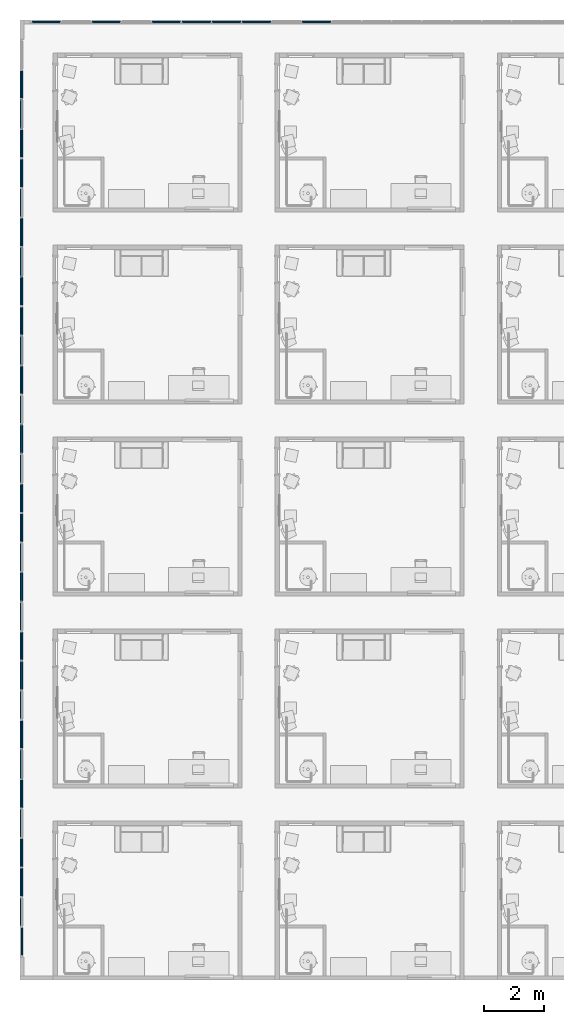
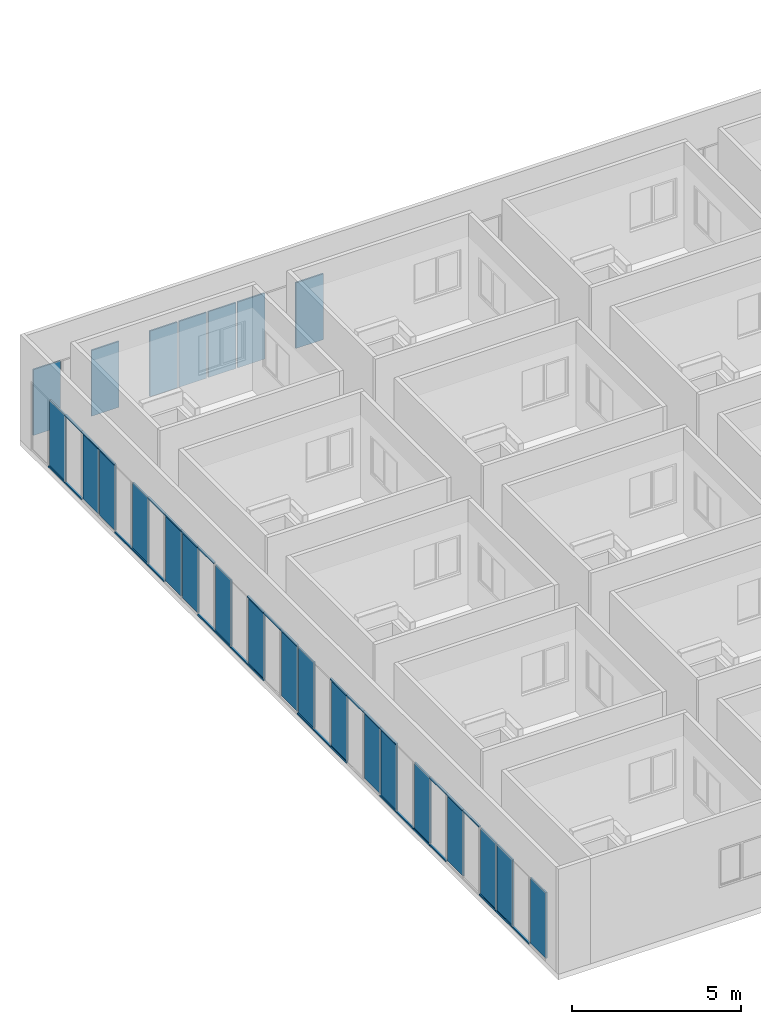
# One storey, part 5 of 69: 36 members, 25 plates, 2 elements without a shape of their own.
"""IFC4 building model written with IfcOpenShell, lengths in centimetres."""

from ifc_helpers import new_model, entity, si_unit, converted_unit, derived_unit, direction, frame, origin, place, context, subcontext, project, spatial, indexed_curve, outline, extrude, source, transform, mapped, material, type_object, type_shapes, element, aggregate, save


model = new_model("IFC4")

# Units and contexts
model_context = context("Model", 3, precision=0.001, world=origin(), true_north=direction((6.123233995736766e-17, 1.0)))
body_context = subcontext(model_context, "Body", "Model", "MODEL_VIEW")
ifc_project = project(units=[si_unit("LENGTHUNIT", "METRE", prefix="CENTI"), si_unit("AREAUNIT", "SQUARE_METRE"), si_unit("VOLUMEUNIT", "CUBIC_METRE"), derived_unit("THERMALTRANSMITTANCEUNIT", [(si_unit("MASSUNIT", "GRAM", prefix="KILO"), 1), (si_unit("THERMODYNAMICTEMPERATUREUNIT", "KELVIN"), -1), (si_unit("TIMEUNIT", "SECOND"), -3)]), converted_unit("PLANEANGLEUNIT", "DEGREE", entity("IfcPlaneAngleMeasure", 0.017453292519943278), si_unit("PLANEANGLEUNIT", "RADIAN"), dimensions=[0, 0, 0, 0, 0, 0, 0]), derived_unit("MASSDENSITYUNIT", [(si_unit("MASSUNIT", "GRAM", prefix="KILO"), 1), (si_unit("LENGTHUNIT", "METRE"), -3)]), derived_unit("VAPORPERMEABILITYUNIT", [(si_unit("LENGTHUNIT", "METRE"), -1), (si_unit("TIMEUNIT", "SECOND"), 1)]), derived_unit("USERDEFINED", [(si_unit("MASSUNIT", "GRAM", prefix="KILO"), 1), (si_unit("TIMEUNIT", "SECOND"), -3), (si_unit("LENGTHUNIT", "METRE"), 3), (si_unit("ELECTRICCURRENTUNIT", "AMPERE"), -2)]), derived_unit("SPECIFICHEATCAPACITYUNIT", [(si_unit("THERMODYNAMICTEMPERATUREUNIT", "KELVIN"), -1), (si_unit("LENGTHUNIT", "METRE"), 2), (si_unit("TIMEUNIT", "SECOND"), -2)]), derived_unit("THERMALCONDUCTANCEUNIT", [(si_unit("MASSUNIT", "GRAM", prefix="KILO"), 1), (si_unit("THERMODYNAMICTEMPERATUREUNIT", "KELVIN"), -1), (si_unit("TIMEUNIT", "SECOND"), -3), (si_unit("LENGTHUNIT", "METRE"), 1)]), si_unit("PRESSUREUNIT", "PASCAL"), derived_unit("MODULUSOFELASTICITYUNIT", [(si_unit("MASSUNIT", "GRAM", prefix="KILO"), 1), (si_unit("LENGTHUNIT", "METRE"), -1), (si_unit("TIMEUNIT", "SECOND"), -2)]), derived_unit("THERMALEXPANSIONCOEFFICIENTUNIT", [(si_unit("THERMODYNAMICTEMPERATUREUNIT", "KELVIN"), -1)])], contexts=[model_context])

# Site, building, storey
site_placement = place(None, origin())
site = spatial("IfcSite", under=ifc_project, at=site_placement, Name="Default", CompositionType="ELEMENT")
building_placement = place(site_placement, origin())
building = spatial("IfcBuilding", under=site, at=building_placement, Name="IDS Escape Game Building", CompositionType="ELEMENT")
storey_placement = place(building_placement, origin())
storey = spatial("IfcBuildingStorey", under=building, at=storey_placement, Name="00_Ground Floor", CompositionType="ELEMENT", Elevation=0.0)

# Curtain wall, members
curtain_wall_type = type_object("IfcCurtainWallType", Name="Curtain Wall:ARC_31.3_CWA_LIB_bandraam vast 100cm - profiel 60x60_gen_BERSnl", PredefinedType="NOTDEFINED")
curtain_wall_1_placement = place(storey_placement, origin())
curtain_wall_1 = element("IfcCurtainWall", 1, at=curtain_wall_1_placement, inside=storey, type_object=curtain_wall_type, Name="Curtain Wall:ARC_31.3_CWA_LIB_bandraam vast 100cm - profiel 60x60_gen_BERSnl", ObjectType="Curtain Wall:ARC_31.3_CWA_LIB_bandraam vast 100cm - profiel 60x60_gen_BERSnl", PredefinedType="NOTDEFINED")
ifc_material_1 = material(Name="<Unnamed>")
member_type_1 = type_object("IfcMemberType", Name="Rectangular Mullion:30-_Stijl_Rechthoek_Midden_B60xD60", PredefinedType="MULLION", material=ifc_material_1)
shared_shape_1 = source(origin(), body_context, "Body", "SweptSolid", [
    extrude(outline(indexed_curve([(-3.0, -3.0), (3.0, -3.0), (3.0, 3.0), (-3.0, 3.0), (-3.0, -3.0)], self_intersect=False)), frame((-3.0, 3.0, -98.1935483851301), z_axis=(0.0, 0.0, 1.0), x_axis=(-1.0, 0.0, 0.0)), (0.0, 0.0, 1.0), 98.1935483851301),
])
type_shapes(member_type_1, [shared_shape_1])
member_1_placement = place(curtain_wall_1_placement, frame((-110.0, 2827.4193548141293, 250.0), z_axis=(0.0, -1.0, 0.0), x_axis=(0.0, 0.0, 1.0)))
member_1 = element("IfcMember", 2, at=member_1_placement, type_object=member_type_1, material=ifc_material_1, Name="Rectangular Mullion:30-_Stijl_Rechthoek_Midden_B60xD60", ObjectType="Rectangular Mullion:30-_Stijl_Rechthoek_Midden_B60xD60", PredefinedType="MULLION", context=body_context, shape_type="MappedRepresentation", body=[
    mapped(shared_shape_1, transform((0.0, 0.0, 0.0), scale=1.0)),
])
member_2_placement = place(curtain_wall_1_placement, frame((-110.0, 2729.2258064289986, 250.0), z_axis=(0.0, -1.0, 0.0), x_axis=(0.0, 0.0, 1.0)))
member_2 = element("IfcMember", 3, at=member_2_placement, type_object=member_type_1, material=ifc_material_1, Name="Rectangular Mullion:30-_Stijl_Rechthoek_Midden_B60xD60", ObjectType="Rectangular Mullion:30-_Stijl_Rechthoek_Midden_B60xD60", PredefinedType="MULLION", context=body_context, shape_type="MappedRepresentation", body=[
    mapped(shared_shape_1, transform((0.0, 0.0, 0.0), scale=1.0)),
])
member_3_placement = place(curtain_wall_1_placement, frame((-110.0, 2631.0322580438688, 250.0), z_axis=(0.0, -1.0, 0.0), x_axis=(0.0, 0.0, 1.0)))
member_3 = element("IfcMember", 4, at=member_3_placement, type_object=member_type_1, material=ifc_material_1, Name="Rectangular Mullion:30-_Stijl_Rechthoek_Midden_B60xD60", ObjectType="Rectangular Mullion:30-_Stijl_Rechthoek_Midden_B60xD60", PredefinedType="MULLION", context=body_context, shape_type="MappedRepresentation", body=[
    mapped(shared_shape_1, transform((0.0, 0.0, 0.0), scale=1.0)),
])
member_4_placement = place(curtain_wall_1_placement, frame((-110.0, 2336.4516128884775, 250.0), z_axis=(0.0, -1.0, 0.0), x_axis=(0.0, 0.0, 1.0)))
member_4 = element("IfcMember", 5, at=member_4_placement, type_object=member_type_1, material=ifc_material_1, Name="Rectangular Mullion:30-_Stijl_Rechthoek_Midden_B60xD60", ObjectType="Rectangular Mullion:30-_Stijl_Rechthoek_Midden_B60xD60", PredefinedType="MULLION", context=body_context, shape_type="MappedRepresentation", body=[
    mapped(shared_shape_1, transform((0.0, 0.0, 0.0), scale=1.0)),
])
member_5_placement = place(curtain_wall_1_placement, frame((-110.0, 2238.258064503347, 250.0), z_axis=(0.0, -1.0, 0.0), x_axis=(0.0, 0.0, 1.0)))
member_5 = element("IfcMember", 6, at=member_5_placement, type_object=member_type_1, material=ifc_material_1, Name="Rectangular Mullion:30-_Stijl_Rechthoek_Midden_B60xD60", ObjectType="Rectangular Mullion:30-_Stijl_Rechthoek_Midden_B60xD60", PredefinedType="MULLION", context=body_context, shape_type="MappedRepresentation", body=[
    mapped(shared_shape_1, transform((0.0, 0.0, 0.0), scale=1.0)),
])
member_6_placement = place(curtain_wall_1_placement, frame((-110.0, 2140.0645161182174, 250.0), z_axis=(0.0, -1.0, 0.0), x_axis=(0.0, 0.0, 1.0)))
member_6 = element("IfcMember", 7, at=member_6_placement, type_object=member_type_1, material=ifc_material_1, Name="Rectangular Mullion:30-_Stijl_Rechthoek_Midden_B60xD60", ObjectType="Rectangular Mullion:30-_Stijl_Rechthoek_Midden_B60xD60", PredefinedType="MULLION", context=body_context, shape_type="MappedRepresentation", body=[
    mapped(shared_shape_1, transform((0.0, 0.0, 0.0), scale=1.0)),
])
member_7_placement = place(curtain_wall_1_placement, frame((-110.0, 2041.870967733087, 250.0), z_axis=(0.0, -1.0, 0.0), x_axis=(0.0, 0.0, 1.0)))
member_7 = element("IfcMember", 8, at=member_7_placement, type_object=member_type_1, material=ifc_material_1, Name="Rectangular Mullion:30-_Stijl_Rechthoek_Midden_B60xD60", ObjectType="Rectangular Mullion:30-_Stijl_Rechthoek_Midden_B60xD60", PredefinedType="MULLION", context=body_context, shape_type="MappedRepresentation", body=[
    mapped(shared_shape_1, transform((0.0, 0.0, 0.0), scale=1.0)),
])
member_8_placement = place(curtain_wall_1_placement, frame((-110.0, 1747.2903225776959, 250.0), z_axis=(0.0, -1.0, 0.0), x_axis=(0.0, 0.0, 1.0)))
member_8 = element("IfcMember", 9, at=member_8_placement, type_object=member_type_1, material=ifc_material_1, Name="Rectangular Mullion:30-_Stijl_Rechthoek_Midden_B60xD60", ObjectType="Rectangular Mullion:30-_Stijl_Rechthoek_Midden_B60xD60", PredefinedType="MULLION", context=body_context, shape_type="MappedRepresentation", body=[
    mapped(shared_shape_1, transform((0.0, 0.0, 0.0), scale=1.0)),
])
member_9_placement = place(curtain_wall_1_placement, frame((-110.0, 1649.0967741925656, 250.0), z_axis=(0.0, -1.0, 0.0), x_axis=(0.0, 0.0, 1.0)))
member_9 = element("IfcMember", 10, at=member_9_placement, type_object=member_type_1, material=ifc_material_1, Name="Rectangular Mullion:30-_Stijl_Rechthoek_Midden_B60xD60", ObjectType="Rectangular Mullion:30-_Stijl_Rechthoek_Midden_B60xD60", PredefinedType="MULLION", context=body_context, shape_type="MappedRepresentation", body=[
    mapped(shared_shape_1, transform((0.0, 0.0, 0.0), scale=1.0)),
])
member_10_placement = place(curtain_wall_1_placement, frame((-110.0, 1550.903225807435, 250.0), z_axis=(0.0, -1.0, 0.0), x_axis=(0.0, 0.0, 1.0)))
member_10 = element("IfcMember", 11, at=member_10_placement, type_object=member_type_1, material=ifc_material_1, Name="Rectangular Mullion:30-_Stijl_Rechthoek_Midden_B60xD60", ObjectType="Rectangular Mullion:30-_Stijl_Rechthoek_Midden_B60xD60", PredefinedType="MULLION", context=body_context, shape_type="MappedRepresentation", body=[
    mapped(shared_shape_1, transform((0.0, 0.0, 0.0), scale=1.0)),
])
member_11_placement = place(curtain_wall_1_placement, frame((-110.0, 1256.3225806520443, 250.0), z_axis=(0.0, -1.0, 0.0), x_axis=(0.0, 0.0, 1.0)))
member_11 = element("IfcMember", 12, at=member_11_placement, type_object=member_type_1, material=ifc_material_1, Name="Rectangular Mullion:30-_Stijl_Rechthoek_Midden_B60xD60", ObjectType="Rectangular Mullion:30-_Stijl_Rechthoek_Midden_B60xD60", PredefinedType="MULLION", context=body_context, shape_type="MappedRepresentation", body=[
    mapped(shared_shape_1, transform((0.0, 0.0, 0.0), scale=1.0)),
])
member_12_placement = place(curtain_wall_1_placement, frame((-110.0, 1158.1290322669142, 250.0), z_axis=(0.0, -1.0, 0.0), x_axis=(0.0, 0.0, 1.0)))
member_12 = element("IfcMember", 13, at=member_12_placement, type_object=member_type_1, material=ifc_material_1, Name="Rectangular Mullion:30-_Stijl_Rechthoek_Midden_B60xD60", ObjectType="Rectangular Mullion:30-_Stijl_Rechthoek_Midden_B60xD60", PredefinedType="MULLION", context=body_context, shape_type="MappedRepresentation", body=[
    mapped(shared_shape_1, transform((0.0, 0.0, 0.0), scale=1.0)),
])
member_13_placement = place(curtain_wall_1_placement, frame((-110.0, 1059.9354838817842, 250.0), z_axis=(0.0, -1.0, 0.0), x_axis=(0.0, 0.0, 1.0)))
member_13 = element("IfcMember", 14, at=member_13_placement, type_object=member_type_1, material=ifc_material_1, Name="Rectangular Mullion:30-_Stijl_Rechthoek_Midden_B60xD60", ObjectType="Rectangular Mullion:30-_Stijl_Rechthoek_Midden_B60xD60", PredefinedType="MULLION", context=body_context, shape_type="MappedRepresentation", body=[
    mapped(shared_shape_1, transform((0.0, 0.0, 0.0), scale=1.0)),
])
member_14_placement = place(curtain_wall_1_placement, frame((-110.0, 961.741935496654, 250.0), z_axis=(0.0, -1.0, 0.0), x_axis=(0.0, 0.0, 1.0)))
member_14 = element("IfcMember", 15, at=member_14_placement, type_object=member_type_1, material=ifc_material_1, Name="Rectangular Mullion:30-_Stijl_Rechthoek_Midden_B60xD60", ObjectType="Rectangular Mullion:30-_Stijl_Rechthoek_Midden_B60xD60", PredefinedType="MULLION", context=body_context, shape_type="MappedRepresentation", body=[
    mapped(shared_shape_1, transform((0.0, 0.0, 0.0), scale=1.0)),
])
member_15_placement = place(curtain_wall_1_placement, frame((-110.0, 667.1612903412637, 250.0), z_axis=(0.0, -1.0, 0.0), x_axis=(0.0, 0.0, 1.0)))
member_15 = element("IfcMember", 16, at=member_15_placement, type_object=member_type_1, material=ifc_material_1, Name="Rectangular Mullion:30-_Stijl_Rechthoek_Midden_B60xD60", ObjectType="Rectangular Mullion:30-_Stijl_Rechthoek_Midden_B60xD60", PredefinedType="MULLION", context=body_context, shape_type="MappedRepresentation", body=[
    mapped(shared_shape_1, transform((0.0, 0.0, 0.0), scale=1.0)),
])
member_16_placement = place(curtain_wall_1_placement, frame((-110.0, 568.9677419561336, 250.0), z_axis=(0.0, -1.0, 0.0), x_axis=(0.0, 0.0, 1.0)))
member_16 = element("IfcMember", 17, at=member_16_placement, type_object=member_type_1, material=ifc_material_1, Name="Rectangular Mullion:30-_Stijl_Rechthoek_Midden_B60xD60", ObjectType="Rectangular Mullion:30-_Stijl_Rechthoek_Midden_B60xD60", PredefinedType="MULLION", context=body_context, shape_type="MappedRepresentation", body=[
    mapped(shared_shape_1, transform((0.0, 0.0, 0.0), scale=1.0)),
])
member_17_placement = place(curtain_wall_1_placement, frame((-110.0, 470.77419357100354, 250.0), z_axis=(0.0, -1.0, 0.0), x_axis=(0.0, 0.0, 1.0)))
member_17 = element("IfcMember", 18, at=member_17_placement, type_object=member_type_1, material=ifc_material_1, Name="Rectangular Mullion:30-_Stijl_Rechthoek_Midden_B60xD60", ObjectType="Rectangular Mullion:30-_Stijl_Rechthoek_Midden_B60xD60", PredefinedType="MULLION", context=body_context, shape_type="MappedRepresentation", body=[
    mapped(shared_shape_1, transform((0.0, 0.0, 0.0), scale=1.0)),
])
member_type_2 = type_object("IfcMemberType", Name="Rectangular Mullion:30-_Stijl_Rechthoek_Midden_B60xD60", PredefinedType="MULLION", material=ifc_material_1)
shared_shape_2 = source(origin(), body_context, "Body", "SweptSolid", [
    extrude(outline(indexed_curve([(-3.0, -3.0), (3.0, -3.0), (3.0, 3.0), (-3.0, 3.0), (-3.0, -3.0)], self_intersect=False)), frame((-3.0, 3.0, -98.1935483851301), z_axis=(0.0, 0.0, 1.0), x_axis=(-1.0, 0.0, 0.0)), (0.0, 0.0, 1.0), 98.1935483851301),
])
type_shapes(member_type_2, [shared_shape_2])
member_18_placement = place(curtain_wall_1_placement, frame((-110.0, 3023.80645158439, 0.0), z_axis=(0.0, 1.0, 0.0), x_axis=(0.0, 0.0, -1.0)))
member_18 = element("IfcMember", 19, at=member_18_placement, type_object=member_type_2, material=ifc_material_1, Name="Rectangular Mullion:30-_Stijl_Rechthoek_Midden_B60xD60", ObjectType="Rectangular Mullion:30-_Stijl_Rechthoek_Midden_B60xD60", PredefinedType="MULLION", context=body_context, shape_type="MappedRepresentation", body=[
    mapped(shared_shape_2, transform((0.0, 0.0, 0.0), scale=1.0)),
])
member_19_placement = place(curtain_wall_1_placement, frame((-110.0, 2925.61290319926, 0.0), z_axis=(0.0, 1.0, 0.0), x_axis=(0.0, 0.0, -1.0)))
member_19 = element("IfcMember", 20, at=member_19_placement, type_object=member_type_2, material=ifc_material_1, Name="Rectangular Mullion:30-_Stijl_Rechthoek_Midden_B60xD60", ObjectType="Rectangular Mullion:30-_Stijl_Rechthoek_Midden_B60xD60", PredefinedType="MULLION", context=body_context, shape_type="MappedRepresentation", body=[
    mapped(shared_shape_2, transform((0.0, 0.0, 0.0), scale=1.0)),
])
member_20_placement = place(curtain_wall_1_placement, frame((-110.0, 2631.0322580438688, 0.0), z_axis=(0.0, 1.0, 0.0), x_axis=(0.0, 0.0, -1.0)))
member_20 = element("IfcMember", 21, at=member_20_placement, type_object=member_type_2, material=ifc_material_1, Name="Rectangular Mullion:30-_Stijl_Rechthoek_Midden_B60xD60", ObjectType="Rectangular Mullion:30-_Stijl_Rechthoek_Midden_B60xD60", PredefinedType="MULLION", context=body_context, shape_type="MappedRepresentation", body=[
    mapped(shared_shape_2, transform((0.0, 0.0, 0.0), scale=1.0)),
])
member_21_placement = place(curtain_wall_1_placement, frame((-110.0, 2532.8387096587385, 0.0), z_axis=(0.0, 1.0, 0.0), x_axis=(0.0, 0.0, -1.0)))
member_21 = element("IfcMember", 22, at=member_21_placement, type_object=member_type_2, material=ifc_material_1, Name="Rectangular Mullion:30-_Stijl_Rechthoek_Midden_B60xD60", ObjectType="Rectangular Mullion:30-_Stijl_Rechthoek_Midden_B60xD60", PredefinedType="MULLION", context=body_context, shape_type="MappedRepresentation", body=[
    mapped(shared_shape_2, transform((0.0, 0.0, 0.0), scale=1.0)),
])
member_22_placement = place(curtain_wall_1_placement, frame((-110.0, 2434.645161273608, 0.0), z_axis=(0.0, 1.0, 0.0), x_axis=(0.0, 0.0, -1.0)))
member_22 = element("IfcMember", 23, at=member_22_placement, type_object=member_type_2, material=ifc_material_1, Name="Rectangular Mullion:30-_Stijl_Rechthoek_Midden_B60xD60", ObjectType="Rectangular Mullion:30-_Stijl_Rechthoek_Midden_B60xD60", PredefinedType="MULLION", context=body_context, shape_type="MappedRepresentation", body=[
    mapped(shared_shape_2, transform((0.0, 0.0, 0.0), scale=1.0)),
])
member_23_placement = place(curtain_wall_1_placement, frame((-110.0, 2140.0645161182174, 0.0), z_axis=(0.0, 1.0, 0.0), x_axis=(0.0, 0.0, -1.0)))
member_23 = element("IfcMember", 24, at=member_23_placement, type_object=member_type_2, material=ifc_material_1, Name="Rectangular Mullion:30-_Stijl_Rechthoek_Midden_B60xD60", ObjectType="Rectangular Mullion:30-_Stijl_Rechthoek_Midden_B60xD60", PredefinedType="MULLION", context=body_context, shape_type="MappedRepresentation", body=[
    mapped(shared_shape_2, transform((0.0, 0.0, 0.0), scale=1.0)),
])
member_24_placement = place(curtain_wall_1_placement, frame((-110.0, 2041.870967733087, 0.0), z_axis=(0.0, 1.0, 0.0), x_axis=(0.0, 0.0, -1.0)))
member_24 = element("IfcMember", 25, at=member_24_placement, type_object=member_type_2, material=ifc_material_1, Name="Rectangular Mullion:30-_Stijl_Rechthoek_Midden_B60xD60", ObjectType="Rectangular Mullion:30-_Stijl_Rechthoek_Midden_B60xD60", PredefinedType="MULLION", context=body_context, shape_type="MappedRepresentation", body=[
    mapped(shared_shape_2, transform((0.0, 0.0, 0.0), scale=1.0)),
])
member_25_placement = place(curtain_wall_1_placement, frame((-110.0, 1943.6774193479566, 0.0), z_axis=(0.0, 1.0, 0.0), x_axis=(0.0, 0.0, -1.0)))
member_25 = element("IfcMember", 26, at=member_25_placement, type_object=member_type_2, material=ifc_material_1, Name="Rectangular Mullion:30-_Stijl_Rechthoek_Midden_B60xD60", ObjectType="Rectangular Mullion:30-_Stijl_Rechthoek_Midden_B60xD60", PredefinedType="MULLION", context=body_context, shape_type="MappedRepresentation", body=[
    mapped(shared_shape_2, transform((0.0, 0.0, 0.0), scale=1.0)),
])
member_26_placement = place(curtain_wall_1_placement, frame((-110.0, 1845.4838709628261, 0.0), z_axis=(0.0, 1.0, 0.0), x_axis=(0.0, 0.0, -1.0)))
member_26 = element("IfcMember", 27, at=member_26_placement, type_object=member_type_2, material=ifc_material_1, Name="Rectangular Mullion:30-_Stijl_Rechthoek_Midden_B60xD60", ObjectType="Rectangular Mullion:30-_Stijl_Rechthoek_Midden_B60xD60", PredefinedType="MULLION", context=body_context, shape_type="MappedRepresentation", body=[
    mapped(shared_shape_2, transform((0.0, 0.0, 0.0), scale=1.0)),
])
member_27_placement = place(curtain_wall_1_placement, frame((-110.0, 1550.9032258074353, 0.0), z_axis=(0.0, 1.0, 0.0), x_axis=(0.0, 0.0, -1.0)))
member_27 = element("IfcMember", 28, at=member_27_placement, type_object=member_type_2, material=ifc_material_1, Name="Rectangular Mullion:30-_Stijl_Rechthoek_Midden_B60xD60", ObjectType="Rectangular Mullion:30-_Stijl_Rechthoek_Midden_B60xD60", PredefinedType="MULLION", context=body_context, shape_type="MappedRepresentation", body=[
    mapped(shared_shape_2, transform((0.0, 0.0, 0.0), scale=1.0)),
])
member_28_placement = place(curtain_wall_1_placement, frame((-110.0, 1452.7096774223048, 0.0), z_axis=(0.0, 1.0, 0.0), x_axis=(0.0, 0.0, -1.0)))
member_28 = element("IfcMember", 29, at=member_28_placement, type_object=member_type_2, material=ifc_material_1, Name="Rectangular Mullion:30-_Stijl_Rechthoek_Midden_B60xD60", ObjectType="Rectangular Mullion:30-_Stijl_Rechthoek_Midden_B60xD60", PredefinedType="MULLION", context=body_context, shape_type="MappedRepresentation", body=[
    mapped(shared_shape_2, transform((0.0, 0.0, 0.0), scale=1.0)),
])
member_29_placement = place(curtain_wall_1_placement, frame((-110.0, 1354.5161290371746, 0.0), z_axis=(0.0, 1.0, 0.0), x_axis=(0.0, 0.0, -1.0)))
member_29 = element("IfcMember", 30, at=member_29_placement, type_object=member_type_2, material=ifc_material_1, Name="Rectangular Mullion:30-_Stijl_Rechthoek_Midden_B60xD60", ObjectType="Rectangular Mullion:30-_Stijl_Rechthoek_Midden_B60xD60", PredefinedType="MULLION", context=body_context, shape_type="MappedRepresentation", body=[
    mapped(shared_shape_2, transform((0.0, 0.0, 0.0), scale=1.0)),
])
member_30_placement = place(curtain_wall_1_placement, frame((-110.0, 1059.9354838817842, 0.0), z_axis=(0.0, 1.0, 0.0), x_axis=(0.0, 0.0, -1.0)))
member_30 = element("IfcMember", 31, at=member_30_placement, type_object=member_type_2, material=ifc_material_1, Name="Rectangular Mullion:30-_Stijl_Rechthoek_Midden_B60xD60", ObjectType="Rectangular Mullion:30-_Stijl_Rechthoek_Midden_B60xD60", PredefinedType="MULLION", context=body_context, shape_type="MappedRepresentation", body=[
    mapped(shared_shape_2, transform((0.0, 0.0, 0.0), scale=1.0)),
])
member_31_placement = place(curtain_wall_1_placement, frame((-110.0, 961.741935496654, 0.0), z_axis=(0.0, 1.0, 0.0), x_axis=(0.0, 0.0, -1.0)))
member_31 = element("IfcMember", 32, at=member_31_placement, type_object=member_type_2, material=ifc_material_1, Name="Rectangular Mullion:30-_Stijl_Rechthoek_Midden_B60xD60", ObjectType="Rectangular Mullion:30-_Stijl_Rechthoek_Midden_B60xD60", PredefinedType="MULLION", context=body_context, shape_type="MappedRepresentation", body=[
    mapped(shared_shape_2, transform((0.0, 0.0, 0.0), scale=1.0)),
])
member_32_placement = place(curtain_wall_1_placement, frame((-110.0, 863.5483871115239, 0.0), z_axis=(0.0, 1.0, 0.0), x_axis=(0.0, 0.0, -1.0)))
member_32 = element("IfcMember", 33, at=member_32_placement, type_object=member_type_2, material=ifc_material_1, Name="Rectangular Mullion:30-_Stijl_Rechthoek_Midden_B60xD60", ObjectType="Rectangular Mullion:30-_Stijl_Rechthoek_Midden_B60xD60", PredefinedType="MULLION", context=body_context, shape_type="MappedRepresentation", body=[
    mapped(shared_shape_2, transform((0.0, 0.0, 0.0), scale=1.0)),
])
member_33_placement = place(curtain_wall_1_placement, frame((-110.0, 765.3548387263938, 0.0), z_axis=(0.0, 1.0, 0.0), x_axis=(0.0, 0.0, -1.0)))
member_33 = element("IfcMember", 34, at=member_33_placement, type_object=member_type_2, material=ifc_material_1, Name="Rectangular Mullion:30-_Stijl_Rechthoek_Midden_B60xD60", ObjectType="Rectangular Mullion:30-_Stijl_Rechthoek_Midden_B60xD60", PredefinedType="MULLION", context=body_context, shape_type="MappedRepresentation", body=[
    mapped(shared_shape_2, transform((0.0, 0.0, 0.0), scale=1.0)),
])
member_34_placement = place(curtain_wall_1_placement, frame((-110.0, 470.77419357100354, 0.0), z_axis=(0.0, 1.0, 0.0), x_axis=(0.0, 0.0, -1.0)))
member_34 = element("IfcMember", 35, at=member_34_placement, type_object=member_type_2, material=ifc_material_1, Name="Rectangular Mullion:30-_Stijl_Rechthoek_Midden_B60xD60", ObjectType="Rectangular Mullion:30-_Stijl_Rechthoek_Midden_B60xD60", PredefinedType="MULLION", context=body_context, shape_type="MappedRepresentation", body=[
    mapped(shared_shape_2, transform((0.0, 0.0, 0.0), scale=1.0)),
])
member_35_placement = place(curtain_wall_1_placement, frame((-110.0, 372.5806451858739, 0.0), z_axis=(0.0, 1.0, 0.0), x_axis=(0.0, 0.0, -1.0)))
member_35 = element("IfcMember", 36, at=member_35_placement, type_object=member_type_2, material=ifc_material_1, Name="Rectangular Mullion:30-_Stijl_Rechthoek_Midden_B60xD60", ObjectType="Rectangular Mullion:30-_Stijl_Rechthoek_Midden_B60xD60", PredefinedType="MULLION", context=body_context, shape_type="MappedRepresentation", body=[
    mapped(shared_shape_2, transform((0.0, 0.0, 0.0), scale=1.0)),
])
member_36_placement = place(curtain_wall_1_placement, frame((-110.0, 274.38709680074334, 0.0), z_axis=(0.0, 1.0, 0.0), x_axis=(0.0, 0.0, -1.0)))
member_36 = element("IfcMember", 37, at=member_36_placement, type_object=member_type_2, material=ifc_material_1, Name="Rectangular Mullion:30-_Stijl_Rechthoek_Midden_B60xD60", ObjectType="Rectangular Mullion:30-_Stijl_Rechthoek_Midden_B60xD60", PredefinedType="MULLION", context=body_context, shape_type="MappedRepresentation", body=[
    mapped(shared_shape_2, transform((0.0, 0.0, 0.0), scale=1.0)),
])

# Curtain wall, plates
curtain_wall_2_placement = place(storey_placement, origin())
curtain_wall_2 = element("IfcCurtainWall", 38, at=curtain_wall_2_placement, inside=storey, type_object=curtain_wall_type, Name="Curtain Wall:ARC_31.3_CWA_LIB_bandraam vast 100cm - profiel 60x60_gen_BERSnl", ObjectType="Curtain Wall:ARC_31.3_CWA_LIB_bandraam vast 100cm - profiel 60x60_gen_BERSnl", PredefinedType="NOTDEFINED")
ifc_material_2 = material(Name="ARC_FME.o1_glass_00_gen_BERSnl", Category="o - glas")
plate_type_1 = type_object("IfcPlateType", Name="System Panel:Glazed", PredefinedType="CURTAIN_PANEL", material=ifc_material_2)
shared_shape_3 = source(origin(), body_context, "Body", "SweptSolid", [
    extrude(outline(indexed_curve([(-2.5, -46.92156864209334), (2.5, -46.92156864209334), (2.5, 46.92156864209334), (-2.5, 46.92156864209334), (-2.5, -46.92156864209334)], self_intersect=False)), frame((0.0, 0.0, 0.0), z_axis=(0.0, 0.0, 1.0), x_axis=(0.0, 1.0, 0.0)), (0.0, 0.0, 1.0), 238.00000000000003),
])
type_shapes(plate_type_1, [shared_shape_3])
plate_1_placement = place(curtain_wall_2_placement, frame((-30.078431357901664, 3182.0, 6.0)))
plate_1 = element("IfcPlate", 39, at=plate_1_placement, type_object=plate_type_1, material=ifc_material_2, Name="System Panel:Glazed", ObjectType="System Panel:Glazed", PredefinedType="CURTAIN_PANEL", context=body_context, shape_type="MappedRepresentation", body=[
    mapped(shared_shape_3, transform((0.0, 0.0, 0.0), scale=1.0)),
])
plate_2_placement = place(curtain_wall_2_placement, frame((169.60784316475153, 3182.0, 6.0)))
plate_2 = element("IfcPlate", 40, at=plate_2_placement, type_object=plate_type_1, material=ifc_material_2, Name="System Panel:Glazed", ObjectType="System Panel:Glazed", PredefinedType="CURTAIN_PANEL", context=body_context, shape_type="MappedRepresentation", body=[
    mapped(shared_shape_3, transform((0.0, 0.0, 0.0), scale=1.0)),
])
plate_3_placement = place(curtain_wall_2_placement, frame((369.2941176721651, 3182.0, 6.0)))
plate_3 = element("IfcPlate", 41, at=plate_3_placement, type_object=plate_type_1, material=ifc_material_2, Name="System Panel:Glazed", ObjectType="System Panel:Glazed", PredefinedType="CURTAIN_PANEL", context=body_context, shape_type="MappedRepresentation", body=[
    mapped(shared_shape_3, transform((0.0, 0.0, 0.0), scale=1.0)),
])
plate_4_placement = place(curtain_wall_2_placement, frame((469.1372549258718, 3182.0, 6.0)))
plate_4 = element("IfcPlate", 42, at=plate_4_placement, type_object=plate_type_1, material=ifc_material_2, Name="System Panel:Glazed", ObjectType="System Panel:Glazed", PredefinedType="CURTAIN_PANEL", context=body_context, shape_type="MappedRepresentation", body=[
    mapped(shared_shape_3, transform((0.0, 0.0, 0.0), scale=1.0)),
])
plate_5_placement = place(curtain_wall_2_placement, frame((568.9803921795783, 3182.0, 6.0)))
plate_5 = element("IfcPlate", 43, at=plate_5_placement, type_object=plate_type_1, material=ifc_material_2, Name="System Panel:Glazed", ObjectType="System Panel:Glazed", PredefinedType="CURTAIN_PANEL", context=body_context, shape_type="MappedRepresentation", body=[
    mapped(shared_shape_3, transform((0.0, 0.0, 0.0), scale=1.0)),
])
plate_6_placement = place(curtain_wall_2_placement, frame((668.823529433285, 3182.0, 6.0)))
plate_6 = element("IfcPlate", 44, at=plate_6_placement, type_object=plate_type_1, material=ifc_material_2, Name="System Panel:Glazed", ObjectType="System Panel:Glazed", PredefinedType="CURTAIN_PANEL", context=body_context, shape_type="MappedRepresentation", body=[
    mapped(shared_shape_3, transform((0.0, 0.0, 0.0), scale=1.0)),
])
plate_7_placement = place(curtain_wall_2_placement, frame((868.5098039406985, 3182.0, 6.0)))
plate_7 = element("IfcPlate", 45, at=plate_7_placement, type_object=plate_type_1, material=ifc_material_2, Name="System Panel:Glazed", ObjectType="System Panel:Glazed", PredefinedType="CURTAIN_PANEL", context=body_context, shape_type="MappedRepresentation", body=[
    mapped(shared_shape_3, transform((0.0, 0.0, 0.0), scale=1.0)),
])
aggregate(curtain_wall_2, [plate_1, plate_2, plate_3, plate_4, plate_5, plate_6, plate_7])

# Plate
plate_type_2 = type_object("IfcPlateType", Name="System Panel:Glazed", PredefinedType="CURTAIN_PANEL", material=ifc_material_2)
shared_shape_4 = source(origin(), body_context, "Body", "SweptSolid", [
    extrude(outline(indexed_curve([(-2.5, -46.09677420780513), (2.5, -46.09677420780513), (2.5, 46.09677420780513), (-2.5, 46.09677420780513), (-2.5, -46.09677420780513)], self_intersect=False)), frame((0.0, 0.0, 0.0), z_axis=(0.0, 0.0, 1.0), x_axis=(0.0, 1.0, 0.0)), (0.0, 0.0, 1.0), 238.00000000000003),
])
type_shapes(plate_type_2, [shared_shape_4])
plate_8_placement = place(curtain_wall_1_placement, frame((-110.0, 2974.7096773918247, 6.0), z_axis=(0.0, 0.0, 1.0), x_axis=(0.0, -1.0, 0.0)))
plate_8 = element("IfcPlate", 46, at=plate_8_placement, type_object=plate_type_2, material=ifc_material_2, Name="System Panel:Glazed", ObjectType="System Panel:Glazed", PredefinedType="CURTAIN_PANEL", context=body_context, shape_type="MappedRepresentation", body=[
    mapped(shared_shape_4, transform((0.0, 0.0, 0.0), scale=1.0)),
])

plate_9_placement = place(curtain_wall_1_placement, frame((-110.0, 2778.3225806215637, 6.0), z_axis=(0.0, 0.0, 1.0), x_axis=(0.0, -1.0, 0.0)))
plate_9 = element("IfcPlate", 47, at=plate_9_placement, type_object=plate_type_2, material=ifc_material_2, Name="System Panel:Glazed", ObjectType="System Panel:Glazed", PredefinedType="CURTAIN_PANEL", context=body_context, shape_type="MappedRepresentation", body=[
    mapped(shared_shape_4, transform((0.0, 0.0, 0.0), scale=1.0)),
])

plate_10_placement = place(curtain_wall_1_placement, frame((-110.0, 2680.129032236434, 6.0), z_axis=(0.0, 0.0, 1.0), x_axis=(0.0, -1.0, 0.0)))
plate_10 = element("IfcPlate", 48, at=plate_10_placement, type_object=plate_type_2, material=ifc_material_2, Name="System Panel:Glazed", ObjectType="System Panel:Glazed", PredefinedType="CURTAIN_PANEL", context=body_context, shape_type="MappedRepresentation", body=[
    mapped(shared_shape_4, transform((0.0, 0.0, 0.0), scale=1.0)),
])

plate_11_placement = place(curtain_wall_1_placement, frame((-110.0, 2483.7419354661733, 6.0), z_axis=(0.0, 0.0, 1.0), x_axis=(0.0, -1.0, 0.0)))
plate_11 = element("IfcPlate", 49, at=plate_11_placement, type_object=plate_type_2, material=ifc_material_2, Name="System Panel:Glazed", ObjectType="System Panel:Glazed", PredefinedType="CURTAIN_PANEL", context=body_context, shape_type="MappedRepresentation", body=[
    mapped(shared_shape_4, transform((0.0, 0.0, 0.0), scale=1.0)),
])

plate_12_placement = place(curtain_wall_1_placement, frame((-110.0, 2287.3548386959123, 6.0), z_axis=(0.0, 0.0, 1.0), x_axis=(0.0, -1.0, 0.0)))
plate_12 = element("IfcPlate", 50, at=plate_12_placement, type_object=plate_type_2, material=ifc_material_2, Name="System Panel:Glazed", ObjectType="System Panel:Glazed", PredefinedType="CURTAIN_PANEL", context=body_context, shape_type="MappedRepresentation", body=[
    mapped(shared_shape_4, transform((0.0, 0.0, 0.0), scale=1.0)),
])

plate_13_placement = place(curtain_wall_1_placement, frame((-110.0, 2189.1612903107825, 6.0), z_axis=(0.0, 0.0, 1.0), x_axis=(0.0, -1.0, 0.0)))
plate_13 = element("IfcPlate", 51, at=plate_13_placement, type_object=plate_type_2, material=ifc_material_2, Name="System Panel:Glazed", ObjectType="System Panel:Glazed", PredefinedType="CURTAIN_PANEL", context=body_context, shape_type="MappedRepresentation", body=[
    mapped(shared_shape_4, transform((0.0, 0.0, 0.0), scale=1.0)),
])

plate_14_placement = place(curtain_wall_1_placement, frame((-110.0, 1992.7741935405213, 6.0), z_axis=(0.0, 0.0, 1.0), x_axis=(0.0, -1.0, 0.0)))
plate_14 = element("IfcPlate", 52, at=plate_14_placement, type_object=plate_type_2, material=ifc_material_2, Name="System Panel:Glazed", ObjectType="System Panel:Glazed", PredefinedType="CURTAIN_PANEL", context=body_context, shape_type="MappedRepresentation", body=[
    mapped(shared_shape_4, transform((0.0, 0.0, 0.0), scale=1.0)),
])

plate_15_placement = place(curtain_wall_1_placement, frame((-110.0, 1796.387096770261, 6.0), z_axis=(0.0, 0.0, 1.0), x_axis=(0.0, -1.0, 0.0)))
plate_15 = element("IfcPlate", 53, at=plate_15_placement, type_object=plate_type_2, material=ifc_material_2, Name="System Panel:Glazed", ObjectType="System Panel:Glazed", PredefinedType="CURTAIN_PANEL", context=body_context, shape_type="MappedRepresentation", body=[
    mapped(shared_shape_4, transform((0.0, 0.0, 0.0), scale=1.0)),
])

plate_16_placement = place(curtain_wall_1_placement, frame((-110.0, 1600.0, 6.0), z_axis=(0.0, 0.0, 1.0), x_axis=(0.0, -1.0, 0.0)))
plate_16 = element("IfcPlate", 54, at=plate_16_placement, type_object=plate_type_2, material=ifc_material_2, Name="System Panel:Glazed", ObjectType="System Panel:Glazed", PredefinedType="CURTAIN_PANEL", context=body_context, shape_type="MappedRepresentation", body=[
    mapped(shared_shape_4, transform((0.0, 0.0, 0.0), scale=1.0)),
])

plate_17_placement = place(curtain_wall_1_placement, frame((-110.0, 1501.80645161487, 6.0), z_axis=(0.0, 0.0, 1.0), x_axis=(0.0, -1.0, 0.0)))
plate_17 = element("IfcPlate", 55, at=plate_17_placement, type_object=plate_type_2, material=ifc_material_2, Name="System Panel:Glazed", ObjectType="System Panel:Glazed", PredefinedType="CURTAIN_PANEL", context=body_context, shape_type="MappedRepresentation", body=[
    mapped(shared_shape_4, transform((0.0, 0.0, 0.0), scale=1.0)),
])

plate_18_placement = place(curtain_wall_1_placement, frame((-110.0, 1305.4193548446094, 6.0), z_axis=(0.0, 0.0, 1.0), x_axis=(0.0, -1.0, 0.0)))
plate_18 = element("IfcPlate", 56, at=plate_18_placement, type_object=plate_type_2, material=ifc_material_2, Name="System Panel:Glazed", ObjectType="System Panel:Glazed", PredefinedType="CURTAIN_PANEL", context=body_context, shape_type="MappedRepresentation", body=[
    mapped(shared_shape_4, transform((0.0, 0.0, 0.0), scale=1.0)),
])

plate_19_placement = place(curtain_wall_1_placement, frame((-110.0, 1109.032258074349, 6.0), z_axis=(0.0, 0.0, 1.0), x_axis=(0.0, -1.0, 0.0)))
plate_19 = element("IfcPlate", 57, at=plate_19_placement, type_object=plate_type_2, material=ifc_material_2, Name="System Panel:Glazed", ObjectType="System Panel:Glazed", PredefinedType="CURTAIN_PANEL", context=body_context, shape_type="MappedRepresentation", body=[
    mapped(shared_shape_4, transform((0.0, 0.0, 0.0), scale=1.0)),
])

plate_20_placement = place(curtain_wall_1_placement, frame((-110.0, 1010.8387096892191, 6.0), z_axis=(0.0, 0.0, 1.0), x_axis=(0.0, -1.0, 0.0)))
plate_20 = element("IfcPlate", 58, at=plate_20_placement, type_object=plate_type_2, material=ifc_material_2, Name="System Panel:Glazed", ObjectType="System Panel:Glazed", PredefinedType="CURTAIN_PANEL", context=body_context, shape_type="MappedRepresentation", body=[
    mapped(shared_shape_4, transform((0.0, 0.0, 0.0), scale=1.0)),
])

plate_21_placement = place(curtain_wall_1_placement, frame((-110.0, 814.4516129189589, 6.0), z_axis=(0.0, 0.0, 1.0), x_axis=(0.0, -1.0, 0.0)))
plate_21 = element("IfcPlate", 59, at=plate_21_placement, type_object=plate_type_2, material=ifc_material_2, Name="System Panel:Glazed", ObjectType="System Panel:Glazed", PredefinedType="CURTAIN_PANEL", context=body_context, shape_type="MappedRepresentation", body=[
    mapped(shared_shape_4, transform((0.0, 0.0, 0.0), scale=1.0)),
])

plate_22_placement = place(curtain_wall_1_placement, frame((-110.0, 618.0645161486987, 6.0), z_axis=(0.0, 0.0, 1.0), x_axis=(0.0, -1.0, 0.0)))
plate_22 = element("IfcPlate", 60, at=plate_22_placement, type_object=plate_type_2, material=ifc_material_2, Name="System Panel:Glazed", ObjectType="System Panel:Glazed", PredefinedType="CURTAIN_PANEL", context=body_context, shape_type="MappedRepresentation", body=[
    mapped(shared_shape_4, transform((0.0, 0.0, 0.0), scale=1.0)),
])

plate_23_placement = place(curtain_wall_1_placement, frame((-110.0, 421.6774193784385, 6.0), z_axis=(0.0, 0.0, 1.0), x_axis=(0.0, -1.0, 0.0)))
plate_23 = element("IfcPlate", 61, at=plate_23_placement, type_object=plate_type_2, material=ifc_material_2, Name="System Panel:Glazed", ObjectType="System Panel:Glazed", PredefinedType="CURTAIN_PANEL", context=body_context, shape_type="MappedRepresentation", body=[
    mapped(shared_shape_4, transform((0.0, 0.0, 0.0), scale=1.0)),
])

plate_24_placement = place(curtain_wall_1_placement, frame((-110.0, 323.4838709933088, 6.0), z_axis=(0.0, 0.0, 1.0), x_axis=(0.0, -1.0, 0.0)))
plate_24 = element("IfcPlate", 62, at=plate_24_placement, type_object=plate_type_2, material=ifc_material_2, Name="System Panel:Glazed", ObjectType="System Panel:Glazed", PredefinedType="CURTAIN_PANEL", context=body_context, shape_type="MappedRepresentation", body=[
    mapped(shared_shape_4, transform((0.0, 0.0, 0.0), scale=1.0)),
])

plate_25_placement = place(curtain_wall_1_placement, frame((-110.0, 127.09677420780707, 6.0), z_axis=(0.0, 0.0, 1.0), x_axis=(0.0, -1.0, 0.0)))
plate_25 = element("IfcPlate", 63, at=plate_25_placement, type_object=plate_type_2, material=ifc_material_2, Name="System Panel:Glazed", ObjectType="System Panel:Glazed", PredefinedType="CURTAIN_PANEL", context=body_context, shape_type="MappedRepresentation", body=[
    mapped(shared_shape_4, transform((0.0, 0.0, 0.0), scale=1.0)),
])

aggregate(curtain_wall_1, [plate_8, plate_9, plate_10, plate_11, plate_12, plate_13, plate_14, plate_15, plate_16, plate_17, plate_18, plate_19, plate_20, plate_21, plate_22, plate_23, plate_24, plate_25, member_1, member_2, member_3, member_4, member_5, member_6, member_7, member_8, member_9, member_10, member_11, member_12, member_13, member_14, member_15, member_16, member_17, member_18, member_19, member_20, member_21, member_22, member_23, member_24, member_25, member_26, member_27, member_28, member_29, member_30, member_31, member_32, member_33, member_34, member_35, member_36])

save(model, "model.ifc")
